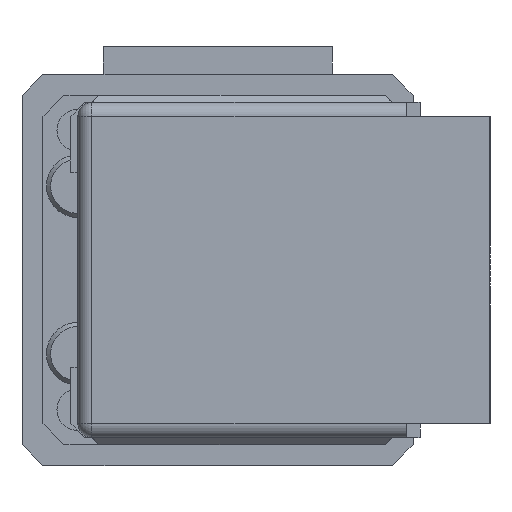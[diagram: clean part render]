
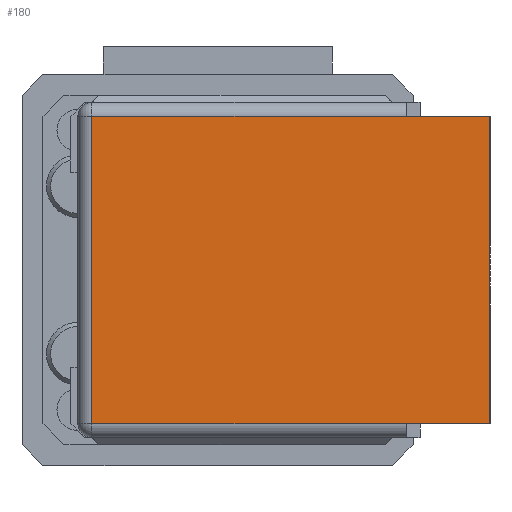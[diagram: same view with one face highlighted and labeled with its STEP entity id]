
A CAD part, left-side view. The second image highlights one B-rep face of the part: STEP entity #180.
In plain terms, the highlighted planar face has unit normal (-1, 0, 0).
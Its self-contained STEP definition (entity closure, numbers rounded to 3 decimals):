
#180 = ADVANCED_FACE ( 'NONE', ( #7296 ), #1481, .F. ) ;
#397 = CARTESIAN_POINT ( 'NONE',  ( 0., 6., -11. ) ) ;
#475 = CARTESIAN_POINT ( 'NONE',  ( 0., 0., 11. ) ) ;
#557 = DIRECTION ( 'NONE',  ( 0., -1., 0. ) ) ;
#636 = LINE ( 'NONE', #7196, #3663 ) ;
#795 = ORIENTED_EDGE ( 'NONE', *, *, #7090, .T. ) ;
#944 = VERTEX_POINT ( 'NONE', #2671 ) ;
#946 = DIRECTION ( 'NONE',  ( 0., 0., -1. ) ) ;
#1216 = VECTOR ( 'NONE', #557, 1000. ) ;
#1334 = VECTOR ( 'NONE', #6024, 1000. ) ;
#1481 = PLANE ( 'NONE',  #3784 ) ;
#1535 = LINE ( 'NONE', #7212, #1334 ) ;
#1622 = EDGE_CURVE ( 'NONE', #6752, #4266, #7621, .T. ) ;
#1792 = CARTESIAN_POINT ( 'NONE',  ( 0., 0., -11. ) ) ;
#2321 = VECTOR ( 'NONE', #2821, 1000. ) ;
#2602 = VECTOR ( 'NONE', #4202, 1000. ) ;
#2671 = CARTESIAN_POINT ( 'NONE',  ( 0., 28.5, -11. ) ) ;
#2694 = DIRECTION ( 'NONE',  ( 1., 0., 0. ) ) ;
#2821 = DIRECTION ( 'NONE',  ( 0., -1., 0. ) ) ;
#3000 = ORIENTED_EDGE ( 'NONE', *, *, #5414, .T. ) ;
#3114 = ORIENTED_EDGE ( 'NONE', *, *, #6742, .T. ) ;
#3272 = ORIENTED_EDGE ( 'NONE', *, *, #1622, .T. ) ;
#3587 = VERTEX_POINT ( 'NONE', #397 ) ;
#3663 = VECTOR ( 'NONE', #7819, 1000. ) ;
#3675 = CARTESIAN_POINT ( 'NONE',  ( 0., 6., 11. ) ) ;
#3719 = LINE ( 'NONE', #6395, #6761 ) ;
#3784 = AXIS2_PLACEMENT_3D ( 'NONE', #6342, #2694, #6922 ) ;
#3877 = CARTESIAN_POINT ( 'NONE',  ( 0., 28.5, 11. ) ) ;
#3931 = LINE ( 'NONE', #6453, #2321 ) ;
#4050 = LINE ( 'NONE', #4164, #1216 ) ;
#4164 = CARTESIAN_POINT ( 'NONE',  ( 0., 6., 11. ) ) ;
#4202 = DIRECTION ( 'NONE',  ( 0., 0., 1. ) ) ;
#4266 = VERTEX_POINT ( 'NONE', #475 ) ;
#4333 = EDGE_CURVE ( 'NONE', #4496, #4266, #4050, .T. ) ;
#4343 = EDGE_CURVE ( 'NONE', #944, #3587, #636, .T. ) ;
#4496 = VERTEX_POINT ( 'NONE', #3675 ) ;
#5180 = ORIENTED_EDGE ( 'NONE', *, *, #4333, .F. ) ;
#5414 = EDGE_CURVE ( 'NONE', #3587, #6752, #3931, .T. ) ;
#6024 = DIRECTION ( 'NONE',  ( 0., 1., 0. ) ) ;
#6342 = CARTESIAN_POINT ( 'NONE',  ( 0., 6., 11. ) ) ;
#6395 = CARTESIAN_POINT ( 'NONE',  ( 0., 28.5, 11. ) ) ;
#6453 = CARTESIAN_POINT ( 'NONE',  ( 0., 6., -11. ) ) ;
#6742 = EDGE_CURVE ( 'NONE', #4496, #7022, #1535, .T. ) ;
#6752 = VERTEX_POINT ( 'NONE', #1792 ) ;
#6761 = VECTOR ( 'NONE', #946, 1000. ) ;
#6922 = DIRECTION ( 'NONE',  ( 0., 0., -1. ) ) ;
#7022 = VERTEX_POINT ( 'NONE', #3877 ) ;
#7090 = EDGE_CURVE ( 'NONE', #7022, #944, #3719, .T. ) ;
#7196 = CARTESIAN_POINT ( 'NONE',  ( 0., 6., -11. ) ) ;
#7212 = CARTESIAN_POINT ( 'NONE',  ( 0., 6., 11. ) ) ;
#7232 = EDGE_LOOP ( 'NONE', ( #795, #7321, #3000, #3272, #5180, #3114 ) ) ;
#7236 = CARTESIAN_POINT ( 'NONE',  ( 0., 0., 11. ) ) ;
#7296 = FACE_OUTER_BOUND ( 'NONE', #7232, .T. ) ;
#7321 = ORIENTED_EDGE ( 'NONE', *, *, #4343, .T. ) ;
#7621 = LINE ( 'NONE', #7236, #2602 ) ;
#7819 = DIRECTION ( 'NONE',  ( 0., -1., 0. ) ) ;
